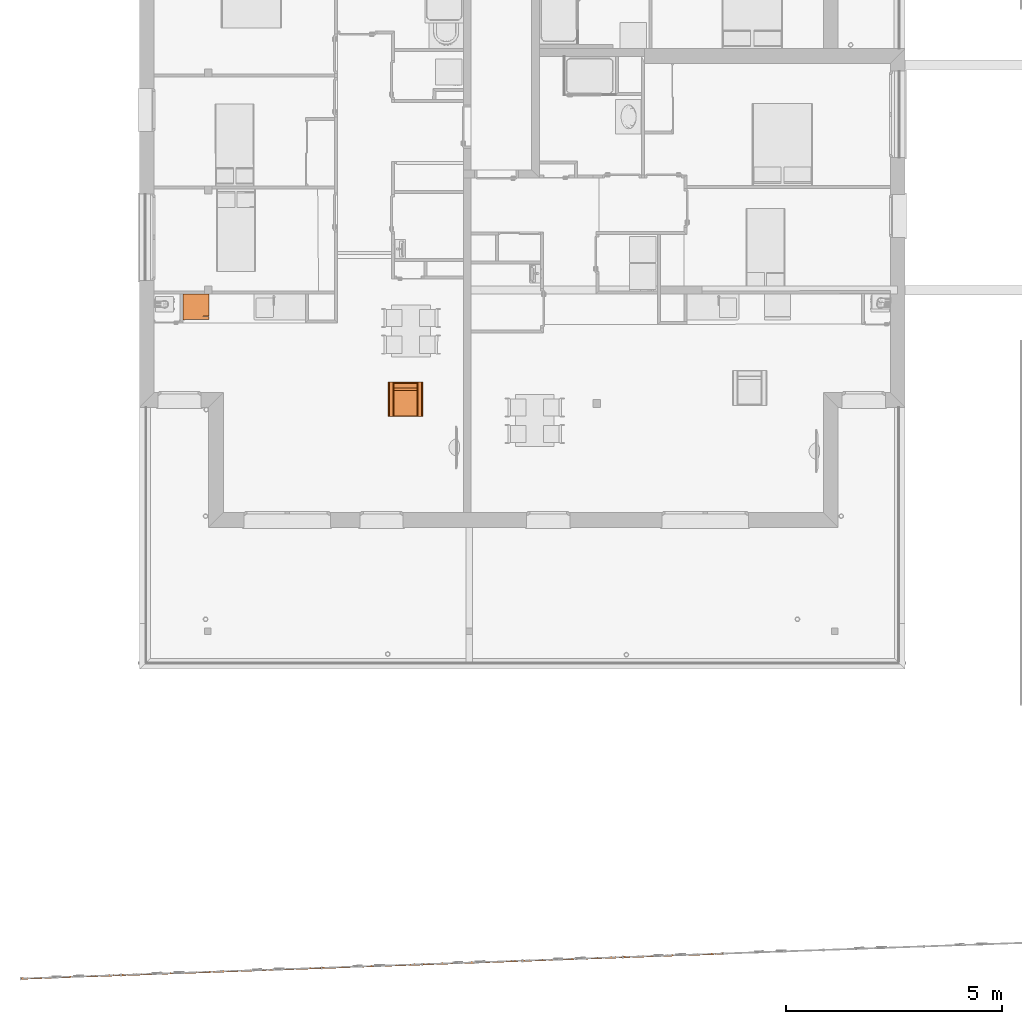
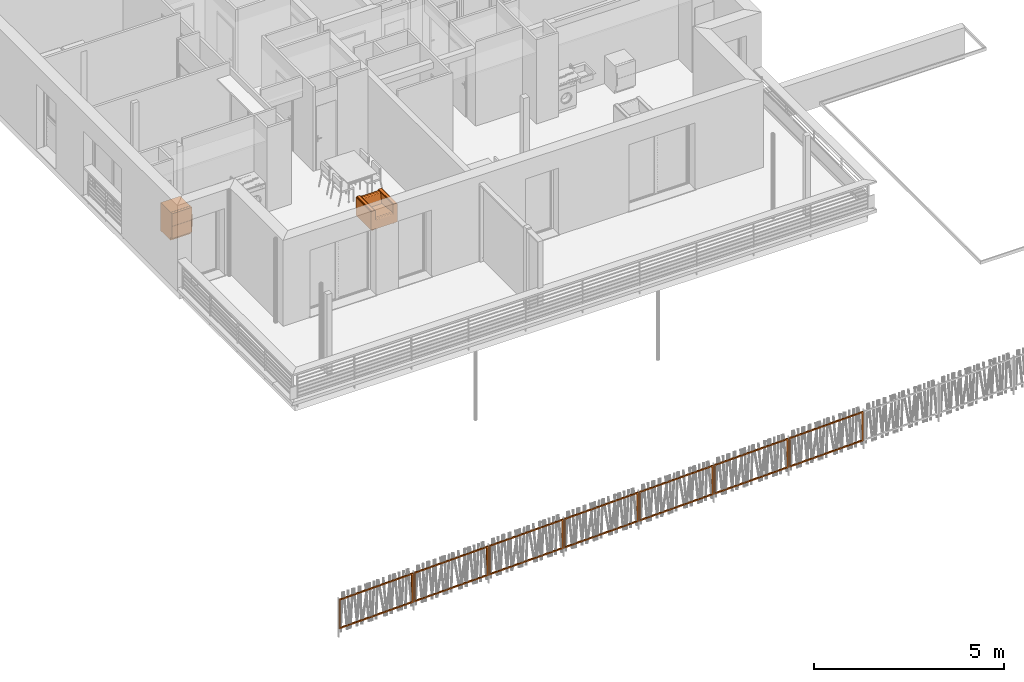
# One storey, part 145 of 171: 9 proxies.
"""IFC2X3 building model written with IfcOpenShell, lengths in millimetres."""

from ifc_helpers import new_model, entity, si_unit, converted_unit, derived_unit, money_unit, direction, frame, origin_with_axes, place, context, subcontext, project, spatial, open_shell, faceted_brep, surface_model, source, transform, mapped, type_object, element, save


model = new_model("IFC2X3")

# Units and contexts
model_context = context("Model", 3, precision=0.01, world=origin_with_axes(), true_north=direction((0.0, 1.0)))
body_context = subcontext(model_context, "Body", "Model", "MODEL_VIEW")
ifc_project = project(units=[si_unit("LENGTHUNIT", "METRE", prefix="MILLI"), si_unit("AREAUNIT", "SQUARE_METRE"), si_unit("VOLUMEUNIT", "CUBIC_METRE"), converted_unit("PLANEANGLEUNIT", "DEGREE", entity("IfcPlaneAngleMeasure", 0.0174532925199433), si_unit("PLANEANGLEUNIT", "RADIAN"), dimensions=[0, 0, 0, 0, 0, 0, 0]), money_unit("USD"), converted_unit("TIMEUNIT", "Year", entity("IfcTimeMeasure", 31557600.0), si_unit("TIMEUNIT", "SECOND"), dimensions=[0, 0, 1, 0, 0, 0, 0]), si_unit("MASSUNIT", "GRAM", prefix="KILO"), si_unit("THERMODYNAMICTEMPERATUREUNIT", "DEGREE_CELSIUS"), si_unit("LUMINOUSINTENSITYUNIT", "LUMEN"), si_unit("ENERGYUNIT", "JOULE", prefix="MEGA"), derived_unit("THERMALCONDUCTANCEUNIT", [(si_unit("POWERUNIT", "WATT"), 1), (si_unit("LENGTHUNIT", "METRE"), -1), (si_unit("THERMODYNAMICTEMPERATUREUNIT", "KELVIN"), -1)]), derived_unit("SPECIFICHEATCAPACITYUNIT", [(si_unit("ENERGYUNIT", "JOULE"), 1), (si_unit("MASSUNIT", "GRAM", prefix="KILO"), -1), (si_unit("THERMODYNAMICTEMPERATUREUNIT", "KELVIN"), -1)]), derived_unit("MASSDENSITYUNIT", [(si_unit("MASSUNIT", "GRAM", prefix="KILO"), 1), (si_unit("VOLUMEUNIT", "CUBIC_METRE"), -1)])], contexts=[model_context])

# Site, building, storey
site_placement = place(None, origin_with_axes())
site = spatial("IfcSite", under=ifc_project, at=site_placement, Name="Site", CompositionType="ELEMENT")
building_placement = place(site_placement, origin_with_axes())
building = spatial("IfcBuilding", under=site, at=building_placement, Name="Bâtiment", CompositionType="ELEMENT")
storey_placement = place(building_placement, frame((0.0, 0.0, 3000.0), z_axis=(0.0, 0.0, 1.0), x_axis=(1.0, 0.0, 0.0)))
storey = spatial("IfcBuildingStorey", under=building, at=storey_placement, Name="rdc", CompositionType="ELEMENT", Elevation=3000.0)

# Proxies
building_element_proxy_type = type_object("IfcBuildingElementProxyType", PredefinedType="NOTDEFINED")
shared_shape_1 = source(origin_with_axes(), body_context, "Body", "Brep", [
    faceted_brep([(-333.3000000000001, 66.7, 0.0), (-333.3000000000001, 100.0, 0.0), (-300.0000000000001, 100.0, 0.0), (-300.0000000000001, 66.7, 0.0), (-333.3000000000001, 66.7, 66.69999999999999), (-333.3000000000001, 100.0, 66.69999999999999), (-300.0000000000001, 100.0, 66.69999999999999), (-300.0000000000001, 66.7, 66.69999999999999)], [[[0, 1, 2, 3]], [[0, 4, 5, 1]], [[1, 5, 6, 2]], [[2, 6, 7, 3]], [[3, 7, 4, 0]], [[7, 6, 5, 4]]]),
    faceted_brep([(-333.3000000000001, 700.0000000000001, 0.0), (-333.3000000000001, 733.3000000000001, 0.0), (-300.0000000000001, 733.3000000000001, 0.0), (-300.0000000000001, 700.0000000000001, 0.0), (-333.3000000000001, 700.0000000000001, 66.69999999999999), (-333.3000000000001, 733.3000000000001, 66.69999999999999), (-300.0000000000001, 733.3000000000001, 66.69999999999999), (-300.0000000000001, 700.0000000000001, 66.69999999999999)], [[[0, 1, 2, 3]], [[0, 4, 5, 1]], [[1, 5, 6, 2]], [[2, 6, 7, 3]], [[3, 7, 4, 0]], [[7, 6, 5, 4]]]),
    faceted_brep([(300.0000000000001, 66.7, 0.0), (300.0000000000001, 100.0, 0.0), (333.3000000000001, 100.0, 0.0), (333.3000000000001, 66.7, 0.0), (300.0000000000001, 66.7, 66.69999999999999), (300.0000000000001, 100.0, 66.69999999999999), (333.3000000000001, 100.0, 66.69999999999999), (333.3000000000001, 66.7, 66.69999999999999)], [[[0, 1, 2, 3]], [[0, 4, 5, 1]], [[1, 5, 6, 2]], [[2, 6, 7, 3]], [[3, 7, 4, 0]], [[7, 6, 5, 4]]]),
    faceted_brep([(300.0000000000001, 700.0000000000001, 0.0), (300.0000000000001, 733.3000000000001, 0.0), (333.3000000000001, 733.3000000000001, 0.0), (333.3000000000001, 700.0000000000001, 0.0), (300.0000000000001, 700.0000000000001, 66.69999999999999), (300.0000000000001, 733.3000000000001, 66.69999999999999), (333.3000000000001, 733.3000000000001, 66.69999999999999), (333.3000000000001, 700.0000000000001, 66.69999999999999)], [[[0, 1, 2, 3]], [[0, 4, 5, 1]], [[1, 5, 6, 2]], [[2, 6, 7, 3]], [[3, 7, 4, 0]], [[7, 6, 5, 4]]]),
    faceted_brep([(-266.7, 800.0, 66.69999999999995), (-266.7, 0.0, 66.69999999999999), (-400.033, 0.0, 66.69999999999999), (-400.033, 800.0, 66.69999999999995), (-266.7, 800.0, 67.19999999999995), (-266.7, 0.0, 67.19999999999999), (-266.7, 0.0, 633.37), (-266.7, 0.0, 636.2859999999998), (-267.713, 0.0, 642.029), (-269.707, 0.0, 647.5099999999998), (-272.623, 0.0, 652.5599999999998), (-276.372, 0.0, 657.0279999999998), (-280.84, 0.0, 660.7769999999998), (-285.89, 0.0, 663.6929999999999), (-291.371, 0.0, 665.6869999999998), (-297.114, 0.0, 666.6999999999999), (-300.03, 0.0, 666.6999999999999), (-366.703, 0.0, 666.6999999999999), (-369.619, 0.0, 666.6999999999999), (-375.363, 0.0, 665.6869999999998), (-380.843, 0.0, 663.6929999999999), (-385.894, 0.0, 660.7769999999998), (-390.361, 0.0, 657.0279999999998), (-394.11, 0.0, 652.5599999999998), (-397.026, 0.0, 647.5099999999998), (-399.021, 0.0, 642.029), (-400.033, 0.0, 636.2859999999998), (-400.033, 0.0, 633.37), (-400.033, 800.0, 633.37), (-400.033, 800.0, 636.2859999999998), (-399.021, 800.0, 642.029), (-397.026, 800.0, 647.5099999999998), (-394.11, 800.0, 652.5599999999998), (-390.361, 800.0, 657.0279999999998), (-385.894, 800.0, 660.7769999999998), (-380.843, 800.0, 663.6929999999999), (-375.363, 800.0, 665.6869999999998), (-369.619, 800.0, 666.6999999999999), (-366.703, 800.0, 666.6999999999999), (-300.03, 800.0, 666.6999999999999), (-297.114, 800.0, 666.6999999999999), (-291.371, 800.0, 665.6869999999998), (-285.89, 800.0, 663.6929999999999), (-280.84, 800.0, 660.7769999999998), (-276.372, 800.0, 657.0279999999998), (-272.623, 800.0, 652.5599999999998), (-269.707, 800.0, 647.5099999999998), (-267.713, 800.0, 642.029), (-266.7, 800.0, 636.2859999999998), (-266.7, 800.0, 633.37)], [[[0, 1, 2, 3]], [[4, 5, 1, 0]], [[1, 5, 6, 7, 8, 9, 10, 11, 12, 13, 14, 15, 16, 17, 18, 19, 20, 21, 22, 23, 24, 25, 26, 27, 2]], [[3, 2, 27, 28]], [[0, 3, 28, 29, 30, 31, 32, 33, 34, 35, 36, 37, 38, 39, 40, 41, 42, 43, 44, 45, 46, 47, 48, 49, 4]], [[49, 6, 5, 4]], [[48, 7, 6, 49]], [[47, 8, 7, 48]], [[46, 9, 8, 47]], [[45, 10, 9, 46]], [[44, 11, 10, 45]], [[43, 12, 11, 44]], [[42, 13, 12, 43]], [[41, 14, 13, 42]], [[40, 15, 14, 41]], [[39, 16, 15, 40]], [[38, 17, 16, 39]], [[37, 18, 17, 38]], [[36, 19, 18, 37]], [[35, 20, 19, 36]], [[34, 21, 20, 35]], [[33, 22, 21, 34]], [[32, 23, 22, 33]], [[31, 24, 23, 32]], [[30, 25, 24, 31]], [[29, 26, 25, 30]], [[28, 27, 26, 29]]]),
    faceted_brep([(400.0, 800.0, 66.69999999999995), (400.0, 0.0, 66.69999999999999), (266.667, 0.0, 66.69999999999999), (266.667, 800.0, 66.69999999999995), (400.0, 800.0, 67.19999999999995), (400.0, 0.0, 67.19999999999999), (400.0, 0.0, 633.37), (400.0, 0.0, 636.2859999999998), (398.987, 0.0, 642.029), (396.9930000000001, 0.0, 647.5099999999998), (394.077, 0.0, 652.5599999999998), (390.328, 0.0, 657.0279999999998), (385.86, 0.0, 660.7769999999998), (380.8100000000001, 0.0, 663.6929999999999), (375.329, 0.0, 665.6869999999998), (369.586, 0.0, 666.6999999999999), (366.67, 0.0, 666.6999999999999), (299.997, 0.0, 666.6999999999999), (297.081, 0.0, 666.6999999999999), (291.337, 0.0, 665.6869999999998), (285.857, 0.0, 663.6929999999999), (280.806, 0.0, 660.7769999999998), (276.339, 0.0, 657.0279999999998), (272.59, 0.0, 652.5599999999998), (269.674, 0.0, 647.5099999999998), (267.679, 0.0, 642.029), (266.667, 0.0, 636.2859999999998), (266.667, 0.0, 633.37), (266.667, 800.0, 633.37), (266.667, 800.0, 636.2859999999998), (267.679, 800.0, 642.029), (269.674, 800.0, 647.5099999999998), (272.59, 800.0, 652.5599999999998), (276.339, 800.0, 657.0279999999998), (280.806, 800.0, 660.7769999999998), (285.857, 800.0, 663.6929999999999), (291.337, 800.0, 665.6869999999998), (297.081, 800.0, 666.6999999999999), (299.997, 800.0, 666.6999999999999), (366.67, 800.0, 666.6999999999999), (369.586, 800.0, 666.6999999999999), (375.329, 800.0, 665.6869999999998), (380.8100000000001, 800.0, 663.6929999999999), (385.86, 800.0, 660.7769999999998), (390.328, 800.0, 657.0279999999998), (394.077, 800.0, 652.5599999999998), (396.9930000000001, 800.0, 647.5099999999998), (398.987, 800.0, 642.029), (400.0, 800.0, 636.2859999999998), (400.0, 800.0, 633.37)], [[[0, 1, 2, 3]], [[4, 5, 1, 0]], [[1, 5, 6, 7, 8, 9, 10, 11, 12, 13, 14, 15, 16, 17, 18, 19, 20, 21, 22, 23, 24, 25, 26, 27, 2]], [[3, 2, 27, 28]], [[0, 3, 28, 29, 30, 31, 32, 33, 34, 35, 36, 37, 38, 39, 40, 41, 42, 43, 44, 45, 46, 47, 48, 49, 4]], [[49, 6, 5, 4]], [[48, 7, 6, 49]], [[47, 8, 7, 48]], [[46, 9, 8, 47]], [[45, 10, 9, 46]], [[44, 11, 10, 45]], [[43, 12, 11, 44]], [[42, 13, 12, 43]], [[41, 14, 13, 42]], [[40, 15, 14, 41]], [[39, 16, 15, 40]], [[38, 17, 16, 39]], [[37, 18, 17, 38]], [[36, 19, 18, 37]], [[35, 20, 19, 36]], [[34, 21, 20, 35]], [[33, 22, 21, 34]], [[32, 23, 22, 33]], [[31, 24, 23, 32]], [[30, 25, 24, 31]], [[29, 26, 25, 30]], [[28, 27, 26, 29]]]),
    faceted_brep([(266.6667, 0.0, 66.69999999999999), (-266.6333, 0.0, 66.69999999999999), (-266.6333, 800.0, 66.69999999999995), (266.6667, 800.0, 66.69999999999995), (266.6667, 0.0, 67.2), (-266.6333, 0.0, 67.2), (-266.6333, 0.0, 325.5449999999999), (-266.6333, -0.2359999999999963, 327.1109999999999), (-266.6333, 1.052000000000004, 338.7049999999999), (-266.6333, 4.334000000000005, 349.8989999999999), (-266.6333, 9.510000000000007, 360.3539999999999), (-266.6333, 16.42300000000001, 369.7509999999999), (-266.6333, 24.86200000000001, 377.8049999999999), (-266.6333, 34.57200000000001, 384.271), (-266.6333, 45.25800000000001, 388.9519999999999), (-266.6333, 56.59300000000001, 391.707), (-266.6333, 68.23500000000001, 392.4519999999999), (-266.6333, 74.03200000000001, 391.808), (-266.6333, 600.0000000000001, 333.3669999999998), (-266.6333, 600.0980000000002, 333.8569999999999), (-266.6333, 655.9480000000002, 613.1049999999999), (-266.6333, 656.6790000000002, 617.351), (-266.6333, 660.6690000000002, 628.314), (-266.6333, 666.5020000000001, 638.4159999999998), (-266.6333, 674.0000000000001, 647.3529999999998), (-266.6333, 682.937, 654.8509999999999), (-266.6333, 693.0390000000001, 660.6839999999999), (-266.6333, 704.0020000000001, 664.6739999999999), (-266.6333, 715.4900000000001, 666.6999999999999), (-266.6333, 721.3230000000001, 666.6999999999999), (-266.6333, 733.33, 666.6999999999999), (-266.6333, 739.163, 666.6999999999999), (-266.6333, 750.6510000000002, 664.6739999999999), (-266.6333, 761.614, 660.6839999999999), (-266.6333, 771.716, 654.8509999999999), (-266.6333, 780.653, 647.3529999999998), (-266.6333, 788.1510000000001, 638.4159999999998), (-266.6333, 793.984, 628.314), (-266.6333, 797.974, 617.351), (-266.6333, 800.0, 605.8629999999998), (-266.6333, 800.0, 600.0299999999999), (266.6667, 800.0, 600.0299999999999), (266.6667, 800.0, 605.8629999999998), (266.6667, 797.974, 617.351), (266.6667, 793.984, 628.314), (266.6667, 788.1510000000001, 638.4159999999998), (266.6667, 780.653, 647.3529999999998), (266.6667, 771.716, 654.8509999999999), (266.6667, 761.614, 660.6839999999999), (266.6667, 750.6510000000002, 664.6739999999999), (266.6667, 739.163, 666.6999999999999), (266.6667, 733.33, 666.6999999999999), (266.6667, 721.3230000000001, 666.6999999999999), (266.6667, 715.4900000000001, 666.6999999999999), (266.6667, 704.0020000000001, 664.6739999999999), (266.6667, 693.0390000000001, 660.6839999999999), (266.6667, 682.937, 654.8509999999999), (266.6667, 674.0000000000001, 647.3529999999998), (266.6667, 666.5020000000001, 638.4159999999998), (266.6667, 660.6690000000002, 628.314), (266.6667, 656.6790000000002, 617.351), (266.6667, 655.9480000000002, 613.1049999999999), (266.6667, 600.0980000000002, 333.8569999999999), (266.6667, 600.0000000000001, 333.3669999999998), (266.6667, 74.03200000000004, 391.808), (266.6667, 68.23500000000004, 392.4519999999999), (266.6667, 56.59300000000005, 391.707), (266.6667, 45.25800000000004, 388.9519999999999), (266.6667, 34.57200000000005, 384.271), (266.6667, 24.86200000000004, 377.8049999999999), (266.6667, 16.42300000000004, 369.7509999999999), (266.6667, 9.510000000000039, 360.3539999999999), (266.6667, 4.334000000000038, 349.8989999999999), (266.6667, 1.052000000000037, 338.7049999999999), (266.6667, -0.2359999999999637, 327.1109999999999), (266.6667, 0.0, 325.5449999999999)], [[[0, 1, 2, 3]], [[4, 5, 1, 0]], [[1, 5, 6, 7, 8, 9, 10, 11, 12, 13, 14, 15, 16, 17, 18, 19, 20, 21, 22, 23, 24, 25, 26, 27, 28, 29, 30, 31, 32, 33, 34, 35, 36, 37, 38, 39, 40, 2]], [[3, 2, 40, 41]], [[0, 3, 41, 42, 43, 44, 45, 46, 47, 48, 49, 50, 51, 52, 53, 54, 55, 56, 57, 58, 59, 60, 61, 62, 63, 64, 65, 66, 67, 68, 69, 70, 71, 72, 73, 74, 75, 4]], [[75, 6, 5, 4]], [[74, 7, 6, 75]], [[73, 8, 7, 74]], [[72, 9, 8, 73]], [[71, 10, 9, 72]], [[70, 11, 10, 71]], [[69, 12, 11, 70]], [[68, 13, 12, 69]], [[67, 14, 13, 68]], [[66, 15, 14, 67]], [[65, 16, 15, 66]], [[64, 17, 16, 65]], [[63, 18, 17, 64]], [[62, 19, 18, 63]], [[61, 20, 19, 62]], [[60, 21, 20, 61]], [[59, 22, 21, 60]], [[58, 23, 22, 59]], [[57, 24, 23, 58]], [[56, 25, 24, 57]], [[55, 26, 25, 56]], [[54, 27, 26, 55]], [[53, 28, 27, 54]], [[52, 29, 28, 53]], [[51, 30, 29, 52]], [[50, 31, 30, 51]], [[49, 32, 31, 50]], [[48, 33, 32, 49]], [[47, 34, 33, 48]], [[46, 35, 34, 47]], [[45, 36, 35, 46]], [[44, 37, 36, 45]], [[43, 38, 37, 44]], [[42, 39, 38, 43]], [[41, 40, 39, 42]]]),
])
proxy_1_placement = place(storey_placement, frame((2222792.850168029, -655254.7378729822, 0.0), z_axis=(0.0, 0.0, 1.0), x_axis=(1.0, 0.0, 0.0)))
element("IfcBuildingElementProxy", 1, at=proxy_1_placement, inside=storey, type_object=building_element_proxy_type, Name="Obj.-034", context=body_context, shape_type="MappedRepresentation", body=[
    mapped(shared_shape_1, transform((0.0, 0.0, 0.0))),
])
shared_shape_2 = source(origin_with_axes(), body_context, "Body", "SurfaceModel", [
    faceted_brep([(0.0, 80.0, 100.0), (600.0, 80.0, 100.0), (600.0, 80.0, 900.0), (0.0, 80.0, 900.0), (0.0, 600.0, 100.0), (600.0, 600.0, 100.0), (600.0, 600.0, 900.0), (0.0, 600.0, 900.0)], [[[0, 1, 2, 3]], [[0, 4, 5, 1]], [[1, 5, 6, 2]], [[3, 2, 6, 7]], [[4, 0, 3, 7]], [[5, 4, 7, 6]]]),
    faceted_brep([(0.0, 80.0, 0.0), (600.0, 80.0, 0.0), (600.0, 80.0, 100.0), (0.0, 80.0, 100.0), (0.0, 600.0, 0.0), (600.0, 600.0, 0.0), (600.0, 600.0, 100.0), (0.0, 600.0, 100.0)], [[[0, 1, 2, 3]], [[0, 4, 5, 1]], [[1, 5, 6, 2]], [[3, 2, 6, 7]], [[4, 0, 3, 7]], [[5, 4, 7, 6]]]),
    faceted_brep([(0.0, 70.0, 100.0), (600.0, 70.0, 100.0), (600.0, 0.0, 100.0), (0.0, 0.0, 100.0), (0.0, 70.00000000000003, 494.0), (600.0, 70.00000000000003, 494.0), (600.0, 0.0, 494.0), (0.0, 0.0, 494.0)], [[[0, 1, 2, 3]], [[0, 4, 5, 1]], [[1, 5, 6, 2]], [[3, 2, 6, 7]], [[4, 0, 3, 7]], [[5, 4, 7, 6]]]),
    faceted_brep([(0.0, 70.0, 500.0), (600.0, 70.0, 500.0), (600.0, 0.0, 500.0), (0.0, 0.0, 500.0), (0.0, 70.00000000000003, 900.0), (600.0, 70.00000000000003, 900.0), (600.0, 0.0, 900.0), (0.0, 0.0, 900.0)], [[[0, 1, 2, 3]], [[0, 4, 5, 1]], [[1, 5, 6, 2]], [[3, 2, 6, 7]], [[4, 0, 3, 7]], [[5, 4, 7, 6]]]),
    surface_model("IfcShellBasedSurfaceModel", [(600.0, -30.0, 300.0000000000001), (600.0, -30.0, 494.0000000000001), (600.0, 0.0, 494.0000000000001), (600.0, 0.0, 300.0000000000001)], [open_shell([[[0, 1, 2, 3]]])]),
    surface_model("IfcShellBasedSurfaceModel", [(600.0, -30.0, 300.0000000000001), (600.0, -30.0, 494.0000000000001), (570.0, -30.0, 494.0000000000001), (570.0, -30.0, 300.0000000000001)], [open_shell([[[0, 1, 2, 3]]])]),
    surface_model("IfcShellBasedSurfaceModel", [(600.0, -30.0, 500.0), (600.0, -30.0, 700.0), (600.0, 0.0, 700.0), (600.0, 0.0, 500.0)], [open_shell([[[0, 1, 2, 3]]])]),
    surface_model("IfcShellBasedSurfaceModel", [(600.0, -30.0, 500.0), (600.0, -30.0, 700.0), (570.0, -30.0, 700.0), (570.0, -30.0, 500.0)], [open_shell([[[0, 1, 2, 3]]])]),
])
proxy_2_placement = place(storey_placement, frame((2217646.125292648, -653012.6802321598, 0.0), z_axis=(0.0, 0.0, 1.0), x_axis=(0.9999969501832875, 0.002469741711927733, 0.0)))
element("IfcBuildingElementProxy", 2, at=proxy_2_placement, inside=storey, type_object=building_element_proxy_type, Name="Obj.-019", context=body_context, shape_type="MappedRepresentation", body=[
    mapped(shared_shape_2, transform((0.0, 0.0, 0.0))),
])
shared_shape_3 = source(origin_with_axes(), body_context, "Body", "Brep", [
    faceted_brep([(0.0, 0.0, 50.0), (2294.467978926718, 0.0, 50.0), (2294.467978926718, -40.0, 50.0), (0.0, -40.0, 50.0), (0.0, 0.0, 1000.0), (2294.467978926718, 0.0, 1000.0), (40.0, 0.0, 90.0), (2254.467978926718, 0.0, 90.0), (2254.467978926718, 0.0, 960.0), (40.0, 0.0, 960.0), (2294.467978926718, -39.99999999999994, 1000.0), (0.0, -39.99999999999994, 1000.0), (40.0, -39.99999999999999, 90.0), (40.0, -39.99999999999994, 960.0), (2254.467978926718, -39.99999999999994, 960.0), (2254.467978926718, -39.99999999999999, 90.0)], [[[0, 1, 2, 3]], [[0, 4, 5, 1], [6, 7, 8, 9]], [[1, 5, 10, 2]], [[3, 2, 10, 11], [12, 13, 14, 15]], [[4, 0, 3, 11]], [[5, 4, 11, 10]], [[7, 6, 12, 15]], [[8, 7, 15, 14]], [[9, 8, 14, 13]], [[6, 9, 13, 12]]]),
])
for number, where, z_axis, x_axis, name in (
    (3, (2216193.931865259, -668201.2913747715, -1900.0), (0.0, 0.0, 1.0), (-0.9993632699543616, -0.03567989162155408, 0.0), "Obj.-047"),
    (4, (2218516.919785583, -668118.3546092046, -1900.0), (0.0, 0.0, 1.0), (-0.9993632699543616, -0.03567989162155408, 0.0), "Obj.-047"),
    (5, (2220839.907705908, -668035.4178436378, -1900.0), (0.0, 0.0, 1.0), (-0.9993632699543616, -0.03567989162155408, 0.0), "Obj.-047"),
    (6, (2223162.895626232, -667952.481078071, -1900.0), (0.0, 0.0, 1.0), (-0.9993632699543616, -0.03567989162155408, 0.0), "Obj.-047"),
    (7, (2225485.883546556, -667869.5443125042, -1900.0), (0.0, 0.0, 1.0), (-0.9993632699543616, -0.03567989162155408, 0.0), "Obj.-047"),
    (8, (2227808.87146688, -667786.6075469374, -1900.0), (0.0, 0.0, 1.0), (-0.9993632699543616, -0.03567989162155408, 0.0), "Obj.-047"),
    (9, (2230131.859387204, -667703.6707813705, -1900.0), (0.0, 0.0, 1.0), (-0.9993632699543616, -0.03567989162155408, 0.0), "Obj.-047"),
):
    element("IfcBuildingElementProxy", number, at=place(storey_placement, frame(where, z_axis=z_axis, x_axis=x_axis)), inside=storey, type_object=building_element_proxy_type, Name=name, context=body_context, shape_type="MappedRepresentation", body=[
        mapped(shared_shape_3, transform((0.0, 0.0, 0.0))),
    ])

save(model, "model.ifc")
